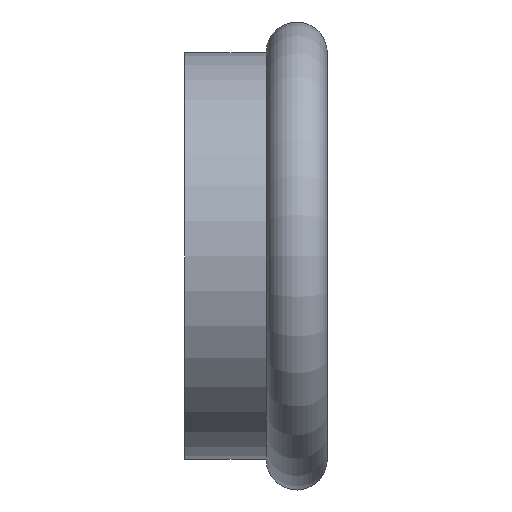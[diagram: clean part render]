
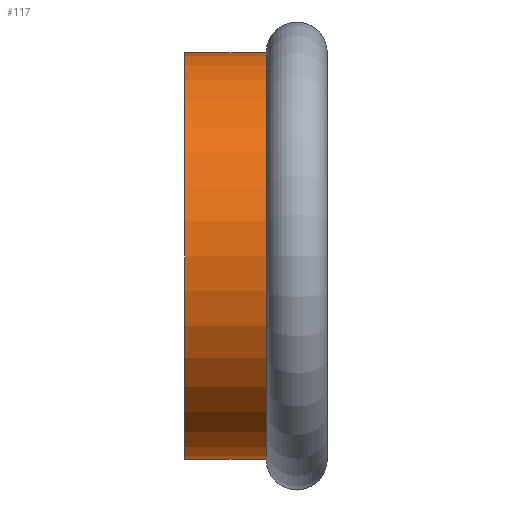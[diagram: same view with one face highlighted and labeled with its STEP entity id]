
A CAD part, left-side view. The second image highlights one B-rep face of the part: STEP entity #117.
In plain terms, the highlighted cylindrical face has radius 4.5 mm (diameter 9 mm), a full revolution.
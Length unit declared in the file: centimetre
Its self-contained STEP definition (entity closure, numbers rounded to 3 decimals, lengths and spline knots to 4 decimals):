
#22=CYLINDRICAL_SURFACE('',#135,0.45);
#26=FACE_BOUND('',#50,.T.);
#36=FACE_OUTER_BOUND('',#49,.T.);
#49=EDGE_LOOP('',(#94));
#50=EDGE_LOOP('',(#95));
#65=CIRCLE('',#134,0.45);
#66=CIRCLE('',#136,0.45);
#74=VERTEX_POINT('',#201);
#75=VERTEX_POINT('',#204);
#83=EDGE_CURVE('',#74,#74,#65,.T.);
#84=EDGE_CURVE('',#75,#75,#66,.T.);
#94=ORIENTED_EDGE('',*,*,#83,.T.);
#95=ORIENTED_EDGE('',*,*,#84,.F.);
#117=ADVANCED_FACE('',(#36,#26),#22,.T.);
#134=AXIS2_PLACEMENT_3D('',#202,#160,#161);
#135=AXIS2_PLACEMENT_3D('',#203,#162,#163);
#136=AXIS2_PLACEMENT_3D('',#205,#164,#165);
#160=DIRECTION('center_axis',(0.,1.,0.));
#161=DIRECTION('ref_axis',(1.,0.,0.));
#162=DIRECTION('center_axis',(0.,1.,0.));
#163=DIRECTION('ref_axis',(0.,0.,1.));
#164=DIRECTION('center_axis',(0.,1.,0.));
#165=DIRECTION('ref_axis',(1.,0.,0.));
#201=CARTESIAN_POINT('',(-0.16,0.0137,0.521));
#202=CARTESIAN_POINT('Origin',(-0.16,0.0137,0.071));
#203=CARTESIAN_POINT('Origin',(-0.16,0.1037,0.071));
#204=CARTESIAN_POINT('',(-0.16,0.1937,0.521));
#205=CARTESIAN_POINT('Origin',(-0.16,0.1937,0.071));
